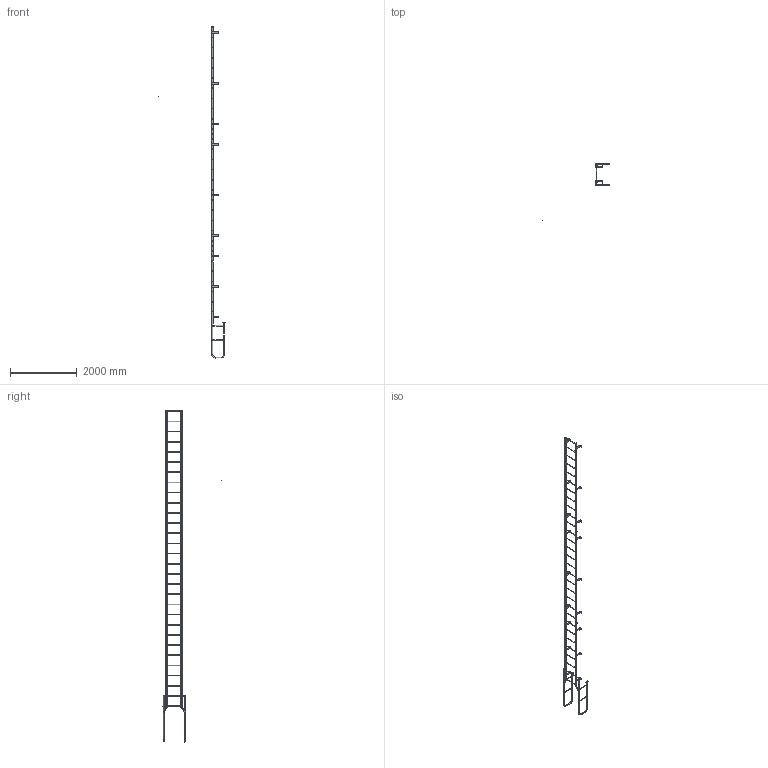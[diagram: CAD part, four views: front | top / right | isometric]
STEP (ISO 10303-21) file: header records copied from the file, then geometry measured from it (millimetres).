
FILE_DESCRIPTION(/* description */ (''),/* implementation_level */ '2;1');
FILE_NAME(/* name */ 'P:\MIKEL & KAREN\D0570358 F30W SIMPLIFIED PART.stp',/* time_stamp */ '2018-07-03T08:39:10-04:00',/* author */ ('stephanie'),/* organization */ (''),/* preprocessor_version */ 'ST-DEVELOPER v16.1',/* originating_system */ 'Autodesk Inventor 2016',/* authorisation */ '');
FILE_SCHEMA (('AUTOMOTIVE_DESIGN { 1 0 10303 214 3 1 1 }'));
Length unit declared in the file: centimetre
Products named in the file (1): D0570358 F30W SIMPLIFIED PART
Bounding box: 2020.75 x 1743.22 x 9953.62 mm (x, y, z)
Volume: 16807150.2 mm3; surface area: 5819170.3 mm2
Topology: 39 solids, 39 shells, 615 faces, 1635 edges, 1078 vertices
Faces by surface type: plane 350, cylinder 257, torus 8
Full cylindrical faces by diameter (mm): 0.254 x1, 10.319 x4, 14.287 x22, 19.05 x30, 22.098 x10, 22.225 x60, 25.4 x10
Entity records: 19066 total; most frequent: CARTESIAN_POINT 3412, DIRECTION 3172, ORIENTED_EDGE 2816, EDGE_CURVE 1404, AXIS2_PLACEMENT_3D 1168, VERTEX_POINT 992, EDGE_LOOP 938, LINE 836
